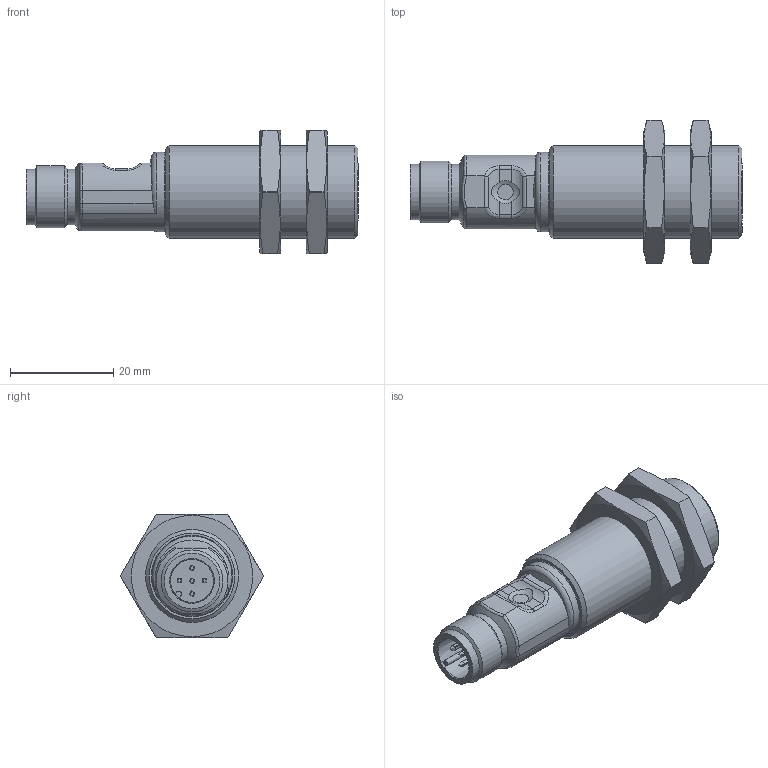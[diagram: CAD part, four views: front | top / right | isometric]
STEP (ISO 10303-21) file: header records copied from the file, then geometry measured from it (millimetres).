
FILE_DESCRIPTION(/* description */ ('Unknown','CAx-IF Rec.Pracs.---Representation and Presentation of Product Manufacturing Information (PMI)---4.0---2014-10-13','CAx-IF Rec.Pracs.---3D Tessellated Geometry---0.4---2014-09-14','2;1'),/* implementation_level */ '2;1');
FILE_NAME(/* name */ 'UR18.xxx.2-xxxx.9SF',/* time_stamp */ '2021-11-24T10:31:20+01:00',/* author */ ('Unknown'),/* organization */ ('Baumer'),/* preprocessor_version */ 'ST-DEVELOPER v16.7',/* originating_system */ 'Solid Edge',/* authorisation */ 'Unknown');
FILE_SCHEMA (('AP242_MANAGED_MODEL_BASED_3D_ENGINEERING_MIM_LF { 1 0 10303 442 1 1 4 }'));
Length unit declared in the file: millimetre
Products named in the file (3): UR18.xxx.2-xxxx.9SF; 101474
Assembly tree (3 placements, depth 2):
  UR18.xxx.2-xxxx.9SF
    UR18.xxx.2-xxxx.9SF
    101474  x2
Bounding box: 64.3 x 27.71 x 24 mm (x, y, z)
Volume: 14858.4 mm3; surface area: 6157.5 mm2
Topology: 3 solids, 3 shells, 185 faces, 498 edges, 330 vertices
Faces by surface type: plane 100, cylinder 49, cone 14, torus 11, bspline 10, sphere 1
Full cylindrical faces by diameter (mm): 10.773 x2, 12 x1, 15.44 x1, 16.917 x2, 18 x1
Entity records: 6596 total; most frequent: CARTESIAN_POINT 1294, ORIENTED_EDGE 838, DIRECTION 788, EDGE_CURVE 419, VERTEX_POINT 287, AXIS2_PLACEMENT_3D 283, LINE 222, VECTOR 222
